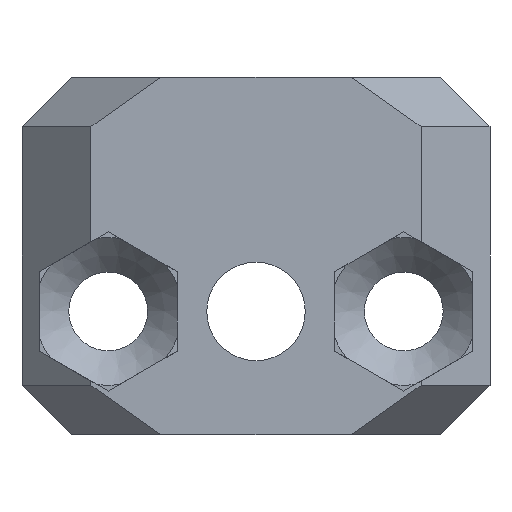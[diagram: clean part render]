
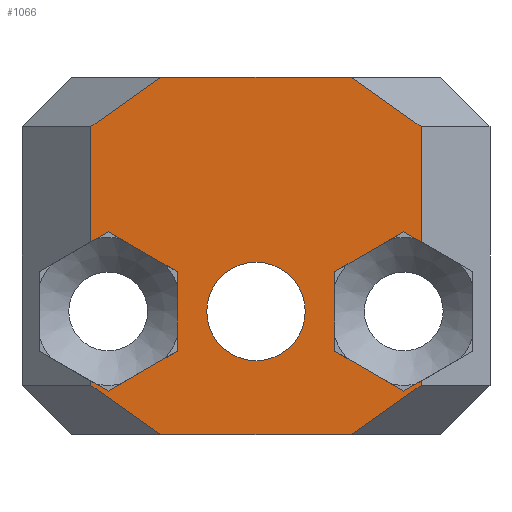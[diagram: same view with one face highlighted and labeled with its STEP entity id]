
A CAD part, front view. The second image highlights one B-rep face of the part: STEP entity #1066.
In plain terms, the highlighted planar face has unit normal (0, -1, 0).
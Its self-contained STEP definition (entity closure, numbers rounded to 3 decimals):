
#18=FACE_BOUND('',#156,.T.);
#45=PLANE('',#1157);
#96=FACE_OUTER_BOUND('',#155,.T.);
#155=EDGE_LOOP('',(#857,#858,#859,#860,#861,#862,#863,#864,#865,#866,#867,
#868,#869,#870,#871,#872,#873,#874,#875,#876));
#156=EDGE_LOOP('',(#877));
#250=LINE('',#1673,#365);
#257=LINE('',#1693,#372);
#261=LINE('',#1701,#376);
#265=LINE('',#1710,#380);
#269=LINE('',#1719,#384);
#272=LINE('',#1724,#387);
#273=LINE('',#1725,#388);
#274=LINE('',#1726,#389);
#275=LINE('',#1728,#390);
#276=LINE('',#1729,#391);
#277=LINE('',#1731,#392);
#278=LINE('',#1733,#393);
#279=LINE('',#1735,#394);
#280=LINE('',#1737,#395);
#281=LINE('',#1738,#396);
#282=LINE('',#1740,#397);
#283=LINE('',#1742,#398);
#284=LINE('',#1744,#399);
#285=LINE('',#1746,#400);
#286=LINE('',#1747,#401);
#365=VECTOR('',#1316,10.);
#372=VECTOR('',#1335,10.);
#376=VECTOR('',#1341,10.);
#380=VECTOR('',#1347,10.);
#384=VECTOR('',#1353,10.);
#387=VECTOR('',#1358,10.);
#388=VECTOR('',#1359,10.);
#389=VECTOR('',#1360,10.);
#390=VECTOR('',#1361,10.);
#391=VECTOR('',#1362,10.);
#392=VECTOR('',#1363,10.);
#393=VECTOR('',#1364,10.);
#394=VECTOR('',#1365,10.);
#395=VECTOR('',#1366,10.);
#396=VECTOR('',#1367,10.);
#397=VECTOR('',#1368,10.);
#398=VECTOR('',#1369,10.);
#399=VECTOR('',#1370,10.);
#400=VECTOR('',#1371,10.);
#401=VECTOR('',#1372,10.);
#455=CIRCLE('',#1158,2.);
#525=VERTEX_POINT('',#1670);
#526=VERTEX_POINT('',#1672);
#532=VERTEX_POINT('',#1691);
#533=VERTEX_POINT('',#1692);
#535=VERTEX_POINT('',#1699);
#536=VERTEX_POINT('',#1700);
#539=VERTEX_POINT('',#1708);
#540=VERTEX_POINT('',#1709);
#543=VERTEX_POINT('',#1717);
#544=VERTEX_POINT('',#1718);
#545=VERTEX_POINT('',#1723);
#546=VERTEX_POINT('',#1727);
#547=VERTEX_POINT('',#1730);
#548=VERTEX_POINT('',#1732);
#549=VERTEX_POINT('',#1734);
#550=VERTEX_POINT('',#1736);
#551=VERTEX_POINT('',#1739);
#552=VERTEX_POINT('',#1741);
#553=VERTEX_POINT('',#1743);
#554=VERTEX_POINT('',#1745);
#555=VERTEX_POINT('',#1748);
#644=EDGE_CURVE('',#525,#526,#250,.T.);
#654=EDGE_CURVE('',#532,#533,#257,.T.);
#658=EDGE_CURVE('',#535,#536,#261,.T.);
#662=EDGE_CURVE('',#539,#540,#265,.T.);
#666=EDGE_CURVE('',#543,#544,#269,.T.);
#669=EDGE_CURVE('',#543,#545,#272,.T.);
#670=EDGE_CURVE('',#545,#539,#273,.T.);
#671=EDGE_CURVE('',#535,#540,#274,.T.);
#672=EDGE_CURVE('',#536,#546,#275,.T.);
#673=EDGE_CURVE('',#546,#533,#276,.T.);
#674=EDGE_CURVE('',#547,#532,#277,.T.);
#675=EDGE_CURVE('',#548,#547,#278,.T.);
#676=EDGE_CURVE('',#548,#549,#279,.T.);
#677=EDGE_CURVE('',#549,#550,#280,.T.);
#678=EDGE_CURVE('',#550,#526,#281,.T.);
#679=EDGE_CURVE('',#525,#551,#282,.T.);
#680=EDGE_CURVE('',#552,#551,#283,.T.);
#681=EDGE_CURVE('',#552,#553,#284,.T.);
#682=EDGE_CURVE('',#554,#553,#285,.T.);
#683=EDGE_CURVE('',#544,#554,#286,.T.);
#684=EDGE_CURVE('',#555,#555,#455,.T.);
#857=ORIENTED_EDGE('',*,*,#666,.F.);
#858=ORIENTED_EDGE('',*,*,#669,.T.);
#859=ORIENTED_EDGE('',*,*,#670,.T.);
#860=ORIENTED_EDGE('',*,*,#662,.T.);
#861=ORIENTED_EDGE('',*,*,#671,.F.);
#862=ORIENTED_EDGE('',*,*,#658,.T.);
#863=ORIENTED_EDGE('',*,*,#672,.T.);
#864=ORIENTED_EDGE('',*,*,#673,.T.);
#865=ORIENTED_EDGE('',*,*,#654,.F.);
#866=ORIENTED_EDGE('',*,*,#674,.F.);
#867=ORIENTED_EDGE('',*,*,#675,.F.);
#868=ORIENTED_EDGE('',*,*,#676,.T.);
#869=ORIENTED_EDGE('',*,*,#677,.T.);
#870=ORIENTED_EDGE('',*,*,#678,.T.);
#871=ORIENTED_EDGE('',*,*,#644,.F.);
#872=ORIENTED_EDGE('',*,*,#679,.T.);
#873=ORIENTED_EDGE('',*,*,#680,.F.);
#874=ORIENTED_EDGE('',*,*,#681,.T.);
#875=ORIENTED_EDGE('',*,*,#682,.F.);
#876=ORIENTED_EDGE('',*,*,#683,.F.);
#877=ORIENTED_EDGE('',*,*,#684,.F.);
#1066=ADVANCED_FACE('',(#96,#18),#45,.T.);
#1157=AXIS2_PLACEMENT_3D('',#1722,#1356,#1357);
#1158=AXIS2_PLACEMENT_3D('',#1749,#1373,#1374);
#1316=DIRECTION('',(1.,0.,0.));
#1335=DIRECTION('',(0.866,0.,-0.5));
#1341=DIRECTION('',(0.816,0.,0.577));
#1347=DIRECTION('',(0.816,0.,-0.577));
#1353=DIRECTION('',(0.866,0.,0.5));
#1356=DIRECTION('center_axis',(0.,-1.,0.));
#1357=DIRECTION('ref_axis',(0.,0.,-1.));
#1358=DIRECTION('',(-0.866,0.,0.5));
#1359=DIRECTION('',(0.,0.,-1.));
#1360=DIRECTION('',(-1.,0.,0.));
#1361=DIRECTION('',(0.,0.,1.));
#1362=DIRECTION('',(-0.866,0.,-0.5));
#1363=DIRECTION('',(0.,0.,-1.));
#1364=DIRECTION('',(-0.866,0.,-0.5));
#1365=DIRECTION('',(0.866,0.,-0.5));
#1366=DIRECTION('',(0.,0.,1.));
#1367=DIRECTION('',(-0.816,0.,0.577));
#1368=DIRECTION('',(-0.816,0.,-0.577));
#1369=DIRECTION('',(0.,0.,1.));
#1370=DIRECTION('',(0.866,0.,0.5));
#1371=DIRECTION('',(-0.866,0.,0.5));
#1372=DIRECTION('',(0.,0.,1.));
#1373=DIRECTION('center_axis',(0.,-1.,0.));
#1374=DIRECTION('ref_axis',(-1.,0.,0.));
#1670=CARTESIAN_POINT('',(-3.872,-7.3,-87.5));
#1672=CARTESIAN_POINT('',(3.872,-7.3,-87.5));
#1673=CARTESIAN_POINT('',(0.,-7.3,-87.5));
#1691=CARTESIAN_POINT('',(3.2,-7.3,-98.617));
#1692=CARTESIAN_POINT('',(6.,-7.3,-100.233));
#1693=CARTESIAN_POINT('',(1.866,-7.3,-97.847));
#1699=CARTESIAN_POINT('',(3.872,-7.3,-102.));
#1700=CARTESIAN_POINT('',(6.7,-7.3,-100.));
#1701=CARTESIAN_POINT('',(4.65,-7.3,-101.45));
#1708=CARTESIAN_POINT('',(-6.7,-7.3,-100.));
#1709=CARTESIAN_POINT('',(-3.872,-7.3,-102.));
#1710=CARTESIAN_POINT('',(-4.65,-7.3,-101.45));
#1717=CARTESIAN_POINT('',(-6.,-7.3,-100.233));
#1718=CARTESIAN_POINT('',(-3.2,-7.3,-98.617));
#1719=CARTESIAN_POINT('',(-3.267,-7.3,-98.655));
#1722=CARTESIAN_POINT('Origin',(0.,-7.3,
-98.));
#1723=CARTESIAN_POINT('',(-6.7,-7.3,-99.829));
#1724=CARTESIAN_POINT('',(-5.634,-7.3,-100.445));
#1725=CARTESIAN_POINT('',(-6.7,-7.3,-98.5));
#1726=CARTESIAN_POINT('',(0.,-7.3,-102.));
#1727=CARTESIAN_POINT('',(6.7,-7.3,-99.829));
#1728=CARTESIAN_POINT('',(6.7,-7.3,-95.875));
#1729=CARTESIAN_POINT('',(4.233,-7.3,-101.253));
#1730=CARTESIAN_POINT('',(3.2,-7.3,-95.383));
#1731=CARTESIAN_POINT('',(3.2,-7.3,-96.692));
#1732=CARTESIAN_POINT('',(6.,-7.3,-93.767));
#1733=CARTESIAN_POINT('',(2.833,-7.3,-95.595));
#1734=CARTESIAN_POINT('',(6.7,-7.3,-94.171));
#1735=CARTESIAN_POINT('',(6.066,-7.3,-93.805));
#1736=CARTESIAN_POINT('',(6.7,-7.3,-89.5));
#1737=CARTESIAN_POINT('',(6.7,-7.3,-95.875));
#1738=CARTESIAN_POINT('',(6.182,-7.3,-89.134));
#1739=CARTESIAN_POINT('',(-6.7,-7.3,-89.5));
#1740=CARTESIAN_POINT('',(-6.182,-7.3,-89.134));
#1741=CARTESIAN_POINT('',(-6.7,-7.3,-94.171));
#1742=CARTESIAN_POINT('',(-6.7,-7.3,-98.5));
#1743=CARTESIAN_POINT('',(-6.,-7.3,-93.767));
#1744=CARTESIAN_POINT('',(-4.667,-7.3,-92.997));
#1745=CARTESIAN_POINT('',(-3.2,-7.3,-95.383));
#1746=CARTESIAN_POINT('',(-1.434,-7.3,-96.403));
#1747=CARTESIAN_POINT('',(-3.2,-7.3,-98.308));
#1748=CARTESIAN_POINT('',(2.,-7.3,-97.));
#1749=CARTESIAN_POINT('Origin',(0.,-7.3,
-97.));
